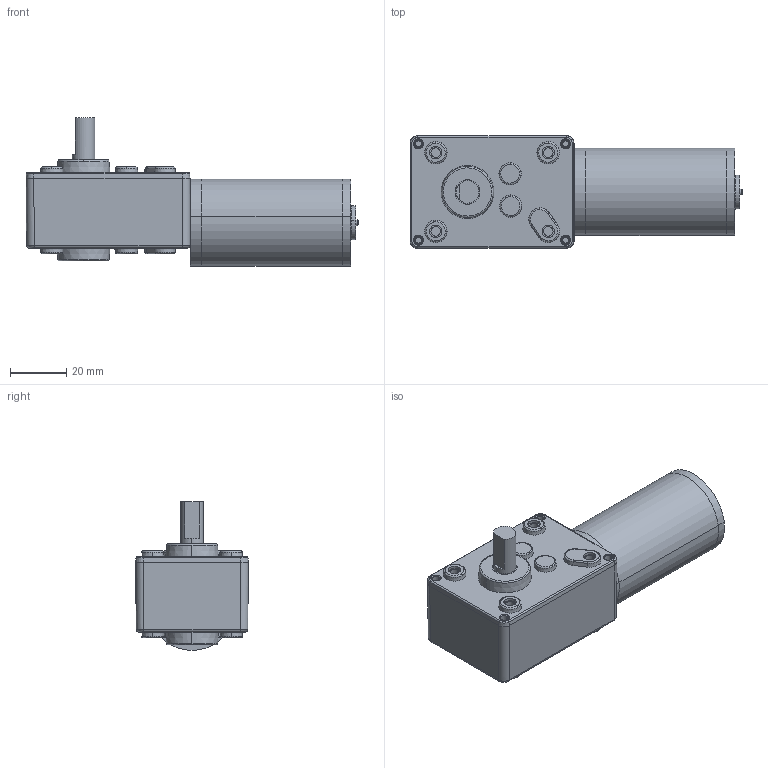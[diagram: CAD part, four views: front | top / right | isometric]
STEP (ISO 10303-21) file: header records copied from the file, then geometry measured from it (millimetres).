
FILE_DESCRIPTION (( 'STEP AP203' ), '1' );
FILE_NAME ('5840-31ZY.STEP', '2023-11-17T05:43:44', ( '' ), ( '' ), 'SwSTEP 2.0', 'SolidWorks 2021', '' );
FILE_SCHEMA (( 'CONFIG_CONTROL_DESIGN' ));
Length unit declared in the file: millimetre
Products named in the file (4): 31ZY; 5840 奻裔; 5840-31ZY; 5840 狟褲
Assembly tree (3 placements, depth 2):
  5840-31ZY
    31ZY
    5840 狟褲
    5840 奻裔
Bounding box: 117.8 x 40 x 52.8 mm (x, y, z)
Volume: 63762 mm3; surface area: 32310 mm2
Topology: 6 solids, 6 shells, 459 faces, 1042 edges, 665 vertices
Faces by surface type: cylinder 148, plane 127, cone 106, bspline 72, torus 6
Entity records: 14721 total; most frequent: CARTESIAN_POINT 4083, DIRECTION 2224, ORIENTED_EDGE 2076, EDGE_CURVE 1038, AXIS2_PLACEMENT_3D 939, VERTEX_POINT 665, EDGE_LOOP 555, CIRCLE 546
